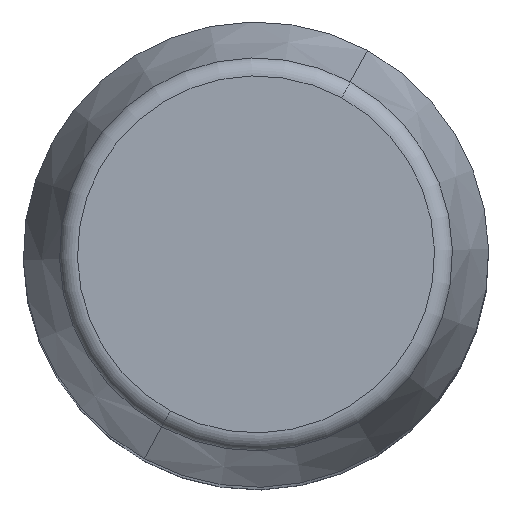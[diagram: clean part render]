
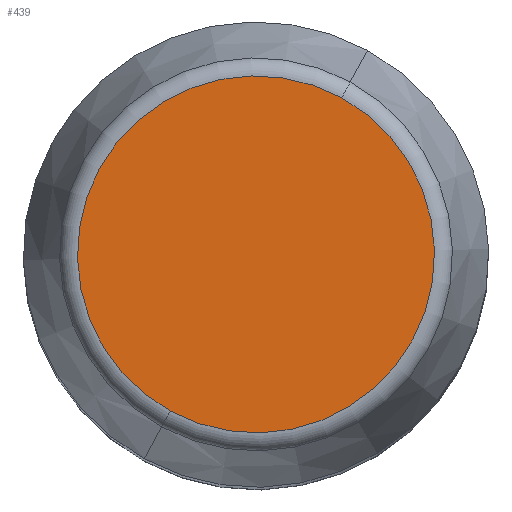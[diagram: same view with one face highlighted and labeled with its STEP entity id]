
A CAD part, top view. The second image highlights one B-rep face of the part: STEP entity #439.
In plain terms, the highlighted planar face has unit normal (0, 0, 1).
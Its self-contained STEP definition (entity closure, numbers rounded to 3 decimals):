
#391=CARTESIAN_POINT('Vertex',(-4.597,-8.415,100.)) ;
#394=CARTESIAN_POINT('Axis2P3D Location',(0.,0.,100.)) ;
#398=CARTESIAN_POINT('Vertex',(4.597,8.415,100.)) ;
#418=CARTESIAN_POINT('Axis2P3D Location',(0.,0.,100.)) ;
#430=CARTESIAN_POINT('Axis2P3D Location',(0.,9.589,100.)) ;
#395=DIRECTION('Axis2P3D Direction',(0.,0.,-1.)) ;
#419=DIRECTION('Axis2P3D Direction',(0.,0.,-1.)) ;
#431=DIRECTION('Axis2P3D Direction',(0.,0.,-1.)) ;
#432=DIRECTION('Axis2P3D XDirection',(1.,0.,0.)) ;
#396=AXIS2_PLACEMENT_3D('Circle Axis2P3D',#394,#395,$) ;
#420=AXIS2_PLACEMENT_3D('Circle Axis2P3D',#418,#419,$) ;
#433=AXIS2_PLACEMENT_3D('Plane Axis2P3D',#430,#431,#432) ;
#436=ORIENTED_EDGE('',*,*,#422,.F.) ;
#437=ORIENTED_EDGE('',*,*,#400,.F.) ;
#439=ADVANCED_FACE('PartBody',(#438),#434,.F.) ;
#397=CIRCLE('generated circle',#396,9.589) ;
#421=CIRCLE('generated circle',#420,9.589) ;
#400=EDGE_CURVE('',#392,#399,#397,.T.) ;
#422=EDGE_CURVE('',#399,#392,#421,.T.) ;
#435=EDGE_LOOP('',(#436,#437)) ;
#438=FACE_OUTER_BOUND('',#435,.T.) ;
#434=PLANE('Plane',#433) ;
#392=VERTEX_POINT('',#391) ;
#399=VERTEX_POINT('',#398) ;
